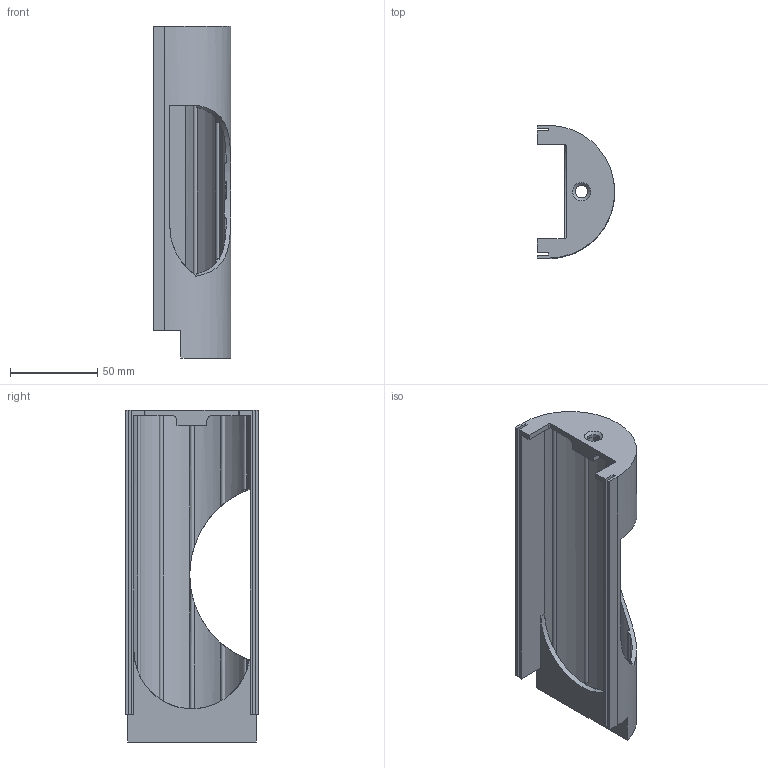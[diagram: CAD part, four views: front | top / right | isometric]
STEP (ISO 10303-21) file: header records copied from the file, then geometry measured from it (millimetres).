
FILE_DESCRIPTION(/* description */ ('Alibre Inc.'),/* implementation_level */ '2;1');
FILE_NAME(/* name */ 'export0',/* time_stamp */ '2014-01-01T18:50:57-05:00',/* author */ (''),/* organization */ (''),/* preprocessor_version */ 'ST-DEVELOPER v14',/* originating_system */ 'Alibre',/* authorisation */ '');
FILE_SCHEMA (('CONFIG_CONTROL_DESIGN'));
Length unit declared in the file: centimetre
Products named in the file (1): ID_1
Bounding box: 44.45 x 76.2 x 190.5 mm (x, y, z)
Volume: 69401.7 mm3; surface area: 55104.8 mm2
Topology: 1 solids, 1 shells, 66 faces, 191 edges, 126 vertices
Faces by surface type: plane 42, cylinder 23, cone 1
Full cylindrical faces by diameter (mm): 7.239 x1
Entity records: 2512 total; most frequent: CARTESIAN_POINT 804, ORIENTED_EDGE 378, DIRECTION 271, EDGE_CURVE 189, VERTEX_POINT 126, VECTOR 116, LINE 116, AXIS2_PLACEMENT_3D 95
